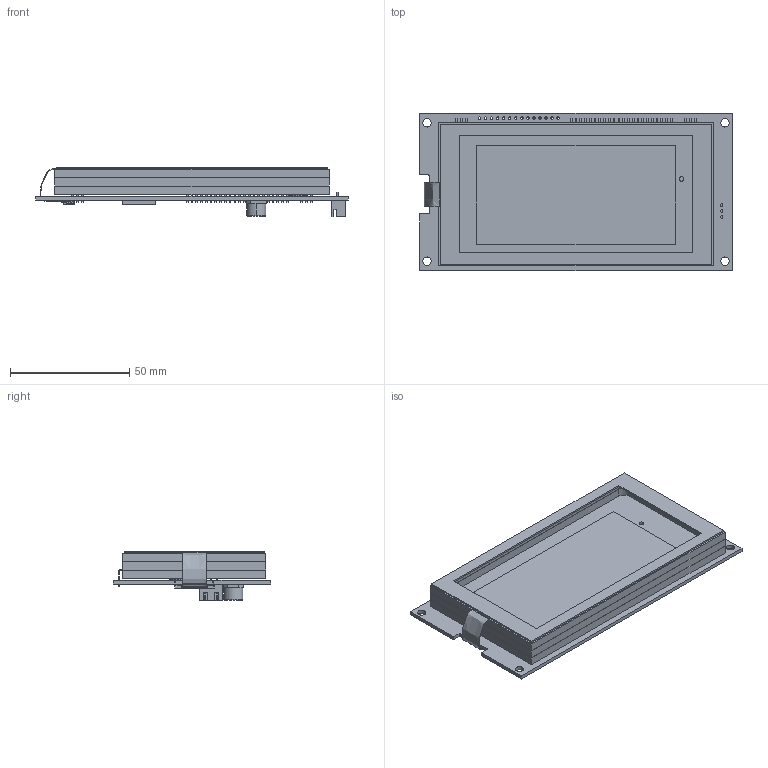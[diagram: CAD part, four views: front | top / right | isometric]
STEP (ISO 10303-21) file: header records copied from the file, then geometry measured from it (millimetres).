
FILE_DESCRIPTION((''),'2;1');
FILE_NAME('GU256X128C-D903M_ASM','2015-12-30T',('samx'),(''),'PRO/ENGINEER BY PARAMETRIC TECHNOLOGY CORPORATION, 2010280','PRO/ENGINEER BY PARAMETRIC TECHNOLOGY CORPORATION, 2010280','');
FILE_SCHEMA(('CONFIG_CONTROL_DESIGN'));
Products named in the file (5): GU256X128C-D903M; HEADER_JST_B3B-XH-A; TSP0804X009; IRISO_IMSA-9631S-20Y800; GU256X128C-D903M_ASM
Assembly tree (4 placements, depth 2):
  GU256X128C-D903M_ASM
    GU256X128C-D903M
    HEADER_JST_B3B-XH-A
    TSP0804X009
    IRISO_IMSA-9631S-20Y800
Bounding box: 131 x 66 x 20.9 mm (x, y, z)
Volume: 49211.2 mm3; surface area: 48428 mm2
Topology: 5 solids, 5 shells, 2070 faces, 7067 edges, 4972 vertices
Faces by surface type: plane 1739, cylinder 320, sphere 5, torus 4, extrusion 2
Entity records: 75723 total; most frequent: CARTESIAN_POINT 14045, ORIENTED_EDGE 13498, DIRECTION 11890, EDGE_CURVE 6749, VECTOR 6280, LINE 6278, VERTEX_POINT 4350, AXIS2_PLACEMENT_3D 2805
